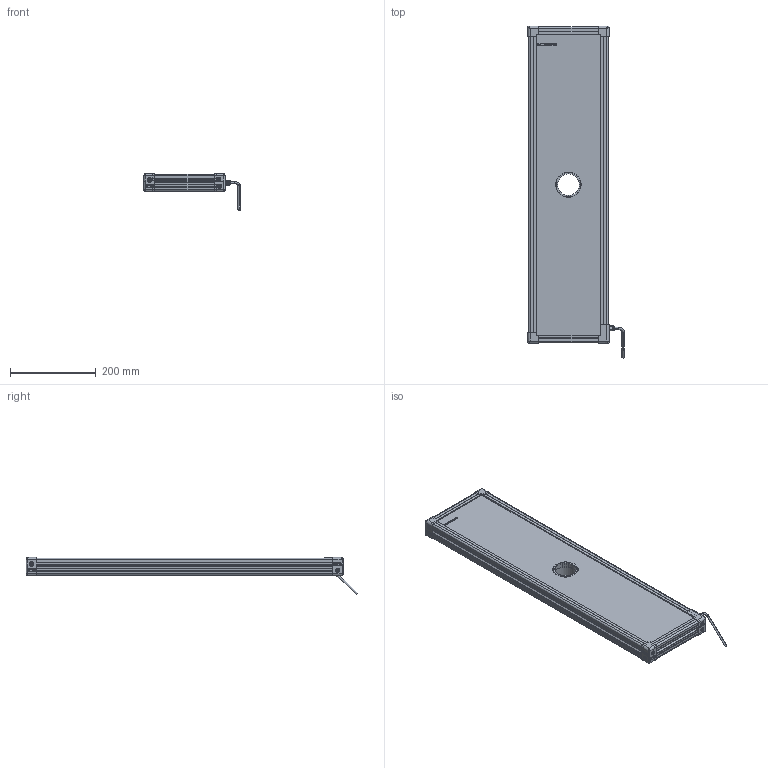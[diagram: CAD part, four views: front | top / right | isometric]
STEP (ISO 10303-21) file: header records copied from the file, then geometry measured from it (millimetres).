
FILE_DESCRIPTION (( 'STEP AP214' ), '1' );
FILE_NAME ('EFFI-FD-150-700-ZZZ-1M12.STEP', '2021-06-18T14:51:01', ( '' ), ( '' ), 'SwSTEP 2.0', 'SolidWorks 2021', '' );
FILE_SCHEMA (( 'AUTOMOTIVE_DESIGN' ));
Length unit declared in the file: millimetre
Products named in the file (13): cordon_Avec cable; 001040; 000629; 000590; 001039; petite joue + vis; grande joue; EFFI-FD-150-700-ZZZ-1M12; profile X_PERCE; Pièce13^EFFI-BL-XXX-YYY-ZZZ (1connecteur) Ø50; petite joue; profile Y_PERCE; Assemblage Ø50
Assembly tree (21 placements, depth 3):
  EFFI-FD-150-700-ZZZ-1M12
    profile X_PERCE  x2
    profile Y_PERCE  x2
    Pièce13^EFFI-BL-XXX-YYY-ZZZ (1connecteur) Ø50
    petite joue + vis  x3
      petite joue
      000629
    000629  x2
    grande joue
    Assemblage Ø50
      001039
      001040
      000590  x3
    cordon_Avec cable
Bounding box: 224.15 x 772.82 x 86.52 mm (x, y, z)
Volume: 4736952.1 mm3; surface area: 586089.5 mm2
Topology: 22 solids, 28 shells, 3840 faces, 10209 edges, 6700 vertices
Faces by surface type: plane 2371, cylinder 724, bspline 552, cone 150, torus 35, sphere 8
Entity records: 72881 total; most frequent: CARTESIAN_POINT 28442, ORIENTED_EDGE 9308, DIRECTION 7751, EDGE_CURVE 4658, VECTOR 3485, LINE 3485, VERTEX_POINT 3071, AXIS2_PLACEMENT_3D 2133
